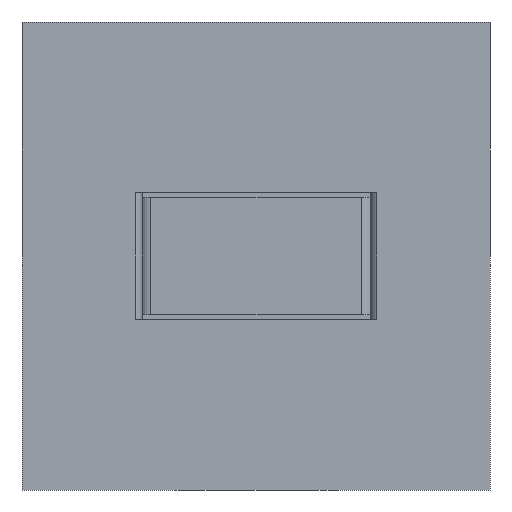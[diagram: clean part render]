
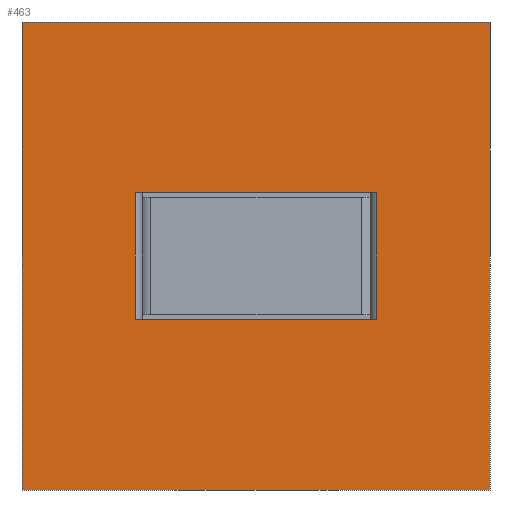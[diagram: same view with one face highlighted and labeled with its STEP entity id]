
A CAD part, front view. The second image highlights one B-rep face of the part: STEP entity #463.
In plain terms, the highlighted planar face has unit normal (0, -1, 0).
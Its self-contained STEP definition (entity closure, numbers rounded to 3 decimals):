
#9 = DIRECTION ( 'NONE',  ( 0., 0., 1. ) ) ;
#11 = VECTOR ( 'NONE', #109, 1000. ) ;
#42 = VERTEX_POINT ( 'NONE', #1931 ) ;
#70 = CARTESIAN_POINT ( 'NONE',  ( 5.15, -10., -2.7 ) ) ;
#73 = EDGE_CURVE ( 'NONE', #396, #1668, #950, .T. ) ;
#91 = EDGE_LOOP ( 'NONE', ( #1502, #221, #695, #1658 ) ) ;
#93 = VERTEX_POINT ( 'NONE', #435 ) ;
#109 = DIRECTION ( 'NONE',  ( 1., 0., 0. ) ) ;
#221 = ORIENTED_EDGE ( 'NONE', *, *, #773, .F. ) ;
#299 = AXIS2_PLACEMENT_3D ( 'NONE', #1822, #936, #9 ) ;
#329 = ORIENTED_EDGE ( 'NONE', *, *, #1569, .T. ) ;
#392 = LINE ( 'NONE', #1773, #1165 ) ;
#396 = VERTEX_POINT ( 'NONE', #1062 ) ;
#404 = DIRECTION ( 'NONE',  ( 0., 0., -1. ) ) ;
#435 = CARTESIAN_POINT ( 'NONE',  ( 5.15, -10., 2.7 ) ) ;
#463 = ADVANCED_FACE ( 'NONE', ( #676, #1089 ), #1967, .F. ) ;
#513 = VECTOR ( 'NONE', #707, 1000. ) ;
#540 = VECTOR ( 'NONE', #596, 1000. ) ;
#562 = CARTESIAN_POINT ( 'NONE',  ( 10., -10., -10. ) ) ;
#596 = DIRECTION ( 'NONE',  ( 0., 0., 1. ) ) ;
#660 = CARTESIAN_POINT ( 'NONE',  ( -10., -10., -10. ) ) ;
#676 = FACE_BOUND ( 'NONE', #91, .T. ) ;
#695 = ORIENTED_EDGE ( 'NONE', *, *, #73, .T. ) ;
#696 = CARTESIAN_POINT ( 'NONE',  ( -5.15, -10., 2.7 ) ) ;
#707 = DIRECTION ( 'NONE',  ( 1., 0., 0. ) ) ;
#730 = EDGE_CURVE ( 'NONE', #1397, #93, #1845, .T. ) ;
#773 = EDGE_CURVE ( 'NONE', #396, #1397, #392, .T. ) ;
#789 = LINE ( 'NONE', #1631, #11 ) ;
#813 = CARTESIAN_POINT ( 'NONE',  ( 10., -10., 10. ) ) ;
#815 = VECTOR ( 'NONE', #1141, 1000. ) ;
#823 = EDGE_LOOP ( 'NONE', ( #1944, #976, #1036, #329 ) ) ;
#836 = VECTOR ( 'NONE', #1347, 1000. ) ;
#890 = LINE ( 'NONE', #1923, #836 ) ;
#936 = DIRECTION ( 'NONE',  ( 0., 1., 0. ) ) ;
#950 = LINE ( 'NONE', #1360, #540 ) ;
#976 = ORIENTED_EDGE ( 'NONE', *, *, #1128, .F. ) ;
#982 = CARTESIAN_POINT ( 'NONE',  ( -10., -10., 10. ) ) ;
#1014 = CARTESIAN_POINT ( 'NONE',  ( 5.15, -10., -2.7 ) ) ;
#1036 = ORIENTED_EDGE ( 'NONE', *, *, #1780, .F. ) ;
#1062 = CARTESIAN_POINT ( 'NONE',  ( -5.15, -10., -2.7 ) ) ;
#1089 = FACE_OUTER_BOUND ( 'NONE', #823, .T. ) ;
#1104 = EDGE_CURVE ( 'NONE', #1668, #93, #1337, .T. ) ;
#1128 = EDGE_CURVE ( 'NONE', #1265, #1140, #1630, .T. ) ;
#1140 = VERTEX_POINT ( 'NONE', #562 ) ;
#1141 = DIRECTION ( 'NONE',  ( 0., 0., -1. ) ) ;
#1165 = VECTOR ( 'NONE', #1624, 1000. ) ;
#1174 = CARTESIAN_POINT ( 'NONE',  ( 10., -10., 10. ) ) ;
#1177 = DIRECTION ( 'NONE',  ( 0., 0., 1. ) ) ;
#1226 = EDGE_CURVE ( 'NONE', #1285, #1140, #789, .T. ) ;
#1248 = VECTOR ( 'NONE', #404, 1000. ) ;
#1265 = VERTEX_POINT ( 'NONE', #813 ) ;
#1285 = VERTEX_POINT ( 'NONE', #660 ) ;
#1337 = LINE ( 'NONE', #1458, #513 ) ;
#1347 = DIRECTION ( 'NONE',  ( 1., 0., 0. ) ) ;
#1360 = CARTESIAN_POINT ( 'NONE',  ( -5.15, -10., -2.7 ) ) ;
#1397 = VERTEX_POINT ( 'NONE', #70 ) ;
#1411 = VECTOR ( 'NONE', #1177, 1000. ) ;
#1458 = CARTESIAN_POINT ( 'NONE',  ( 5.15, -10., 2.7 ) ) ;
#1502 = ORIENTED_EDGE ( 'NONE', *, *, #730, .F. ) ;
#1527 = LINE ( 'NONE', #982, #815 ) ;
#1569 = EDGE_CURVE ( 'NONE', #42, #1285, #1527, .T. ) ;
#1624 = DIRECTION ( 'NONE',  ( 1., 0., 0. ) ) ;
#1630 = LINE ( 'NONE', #1174, #1248 ) ;
#1631 = CARTESIAN_POINT ( 'NONE',  ( -10., -10., -10. ) ) ;
#1658 = ORIENTED_EDGE ( 'NONE', *, *, #1104, .T. ) ;
#1668 = VERTEX_POINT ( 'NONE', #696 ) ;
#1773 = CARTESIAN_POINT ( 'NONE',  ( 5.15, -10., -2.7 ) ) ;
#1780 = EDGE_CURVE ( 'NONE', #42, #1265, #890, .T. ) ;
#1822 = CARTESIAN_POINT ( 'NONE',  ( -10., -10., 10. ) ) ;
#1845 = LINE ( 'NONE', #1014, #1411 ) ;
#1923 = CARTESIAN_POINT ( 'NONE',  ( -10., -10., 10. ) ) ;
#1931 = CARTESIAN_POINT ( 'NONE',  ( -10., -10., 10. ) ) ;
#1944 = ORIENTED_EDGE ( 'NONE', *, *, #1226, .T. ) ;
#1967 = PLANE ( 'NONE',  #299 ) ;
